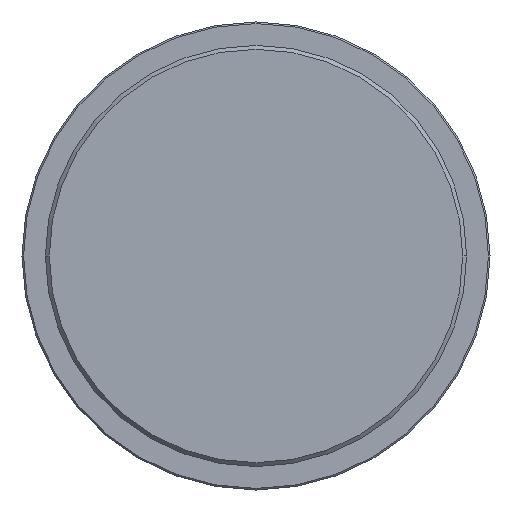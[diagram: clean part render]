
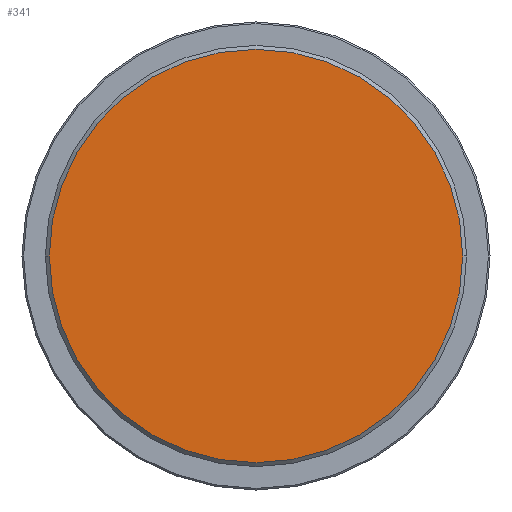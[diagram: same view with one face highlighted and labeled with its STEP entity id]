
A CAD part, left-side view. The second image highlights one B-rep face of the part: STEP entity #341.
In plain terms, the highlighted planar face has unit normal (-1, 0, 0).
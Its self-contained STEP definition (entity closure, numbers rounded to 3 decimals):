
#279 = EDGE_LOOP ( 'NONE', ( #329, #340 ) ) ;
#329 = ORIENTED_EDGE ( 'NONE', *, *, #339, .T. ) ;
#339 = EDGE_CURVE ( 'NONE', #1683, #1682, #1154, .T. ) ;
#340 = ORIENTED_EDGE ( 'NONE', *, *, #1686, .T. ) ;
#341 = ADVANCED_FACE ( 'NONE', ( #1149 ), #1148, .T. ) ;
#1143 = DIRECTION ( 'NONE',  ( 0., -1., 0. ) ) ;
#1144 = DIRECTION ( 'NONE',  ( -1., 0., 0. ) ) ;
#1145 = CARTESIAN_POINT ( 'NONE',  ( -98., 27., 0. ) ) ;
#1147 = AXIS2_PLACEMENT_3D ( 'NONE', #1145, #1144, #1143 ) ;
#1148 = PLANE ( 'NONE',  #1147 ) ;
#1149 = FACE_OUTER_BOUND ( 'NONE', #279, .T. ) ;
#1150 = DIRECTION ( 'NONE',  ( 0., -1., 0. ) ) ;
#1151 = DIRECTION ( 'NONE',  ( -1., 0., 0. ) ) ;
#1152 = CARTESIAN_POINT ( 'NONE',  ( -98., 0., 0. ) ) ;
#1153 = AXIS2_PLACEMENT_3D ( 'NONE', #1152, #1151, #1150 ) ;
#1154 = CIRCLE ( 'NONE', #1153, 26.5 ) ;
#1426 = CARTESIAN_POINT ( 'NONE',  ( -98., -26.5, 0. ) ) ;
#1480 = DIRECTION ( 'NONE',  ( 0., -1., 0. ) ) ;
#1481 = DIRECTION ( 'NONE',  ( -1., 0., 0. ) ) ;
#1482 = CARTESIAN_POINT ( 'NONE',  ( -98., 0., 0. ) ) ;
#1483 = AXIS2_PLACEMENT_3D ( 'NONE', #1482, #1481, #1480 ) ;
#1484 = CIRCLE ( 'NONE', #1483, 26.5 ) ;
#1487 = CARTESIAN_POINT ( 'NONE',  ( -98., 26.5, 0. ) ) ;
#1682 = VERTEX_POINT ( 'NONE', #1426 ) ;
#1683 = VERTEX_POINT ( 'NONE', #1487 ) ;
#1686 = EDGE_CURVE ( 'NONE', #1682, #1683, #1484, .T. ) ;
